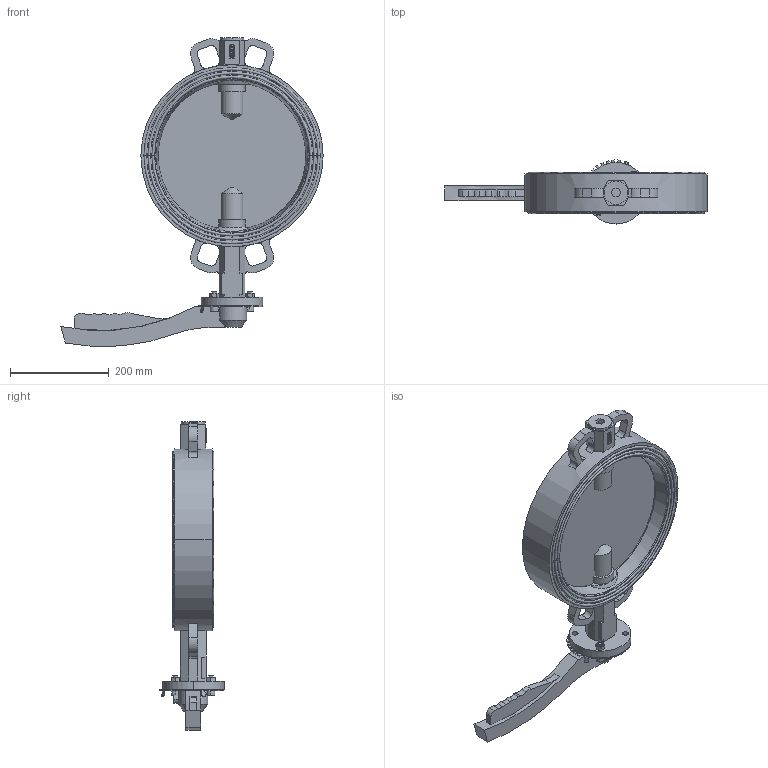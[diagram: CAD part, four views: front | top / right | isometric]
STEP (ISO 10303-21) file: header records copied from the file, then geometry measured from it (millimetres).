
FILE_DESCRIPTION((''),'2;1');
FILE_NAME('SB_RUCHKA_ASM','2023-12-24T',('DIMA'),(''),'PRO/ENGINEER BY PARAMETRIC TECHNOLOGY CORPORATION, 2008020','PRO/ENGINEER BY PARAMETRIC TECHNOLOGY CORPORATION, 2008020','');
FILE_SCHEMA(('CONFIG_CONTROL_DESIGN'));
Length unit declared in the file: millimetre
Products named in the file (19): KORPUS; REZ; DISK; SHTIR_1; ZAGLUSHKA; O-RING; SHTIR_2; SHAIBA_RAZREZ; SHAIBA; KOLCO_45_GOST13943; VTULKA; MANZET_REZ; SB_ASM; PLASTINA; RUCHKA; V-11738-M10X30; G-5915-M10; V-11738-M10X20; SB_RUCHKA_ASM
Assembly tree (26 placements, depth 3):
  SB_RUCHKA_ASM
    SB_ASM
      KORPUS
      REZ
      DISK
      SHTIR_1
      ZAGLUSHKA
      O-RING  x2
      SHTIR_2
      SHAIBA_RAZREZ
      SHAIBA  x2
      KOLCO_45_GOST13943
      VTULKA  x5
      MANZET_REZ
    PLASTINA
    RUCHKA
    V-11738-M10X30  x2
    G-5915-M10  x2
    V-11738-M10X20
Bounding box: 532.5 x 129.96 x 626.99 mm (x, y, z)
Volume: 5115331.4 mm3; surface area: 1008053 mm2
Topology: 25 solids, 32 shells, 790 faces, 2035 edges, 1333 vertices
Faces by surface type: plane 471, cylinder 236, cone 51, torus 28, bspline 4
Entity records: 23364 total; most frequent: CARTESIAN_POINT 4607, DIRECTION 3950, ORIENTED_EDGE 3740, EDGE_CURVE 1883, AXIS2_PLACEMENT_3D 1352, VECTOR 1246, LINE 1246, VERTEX_POINT 1235
